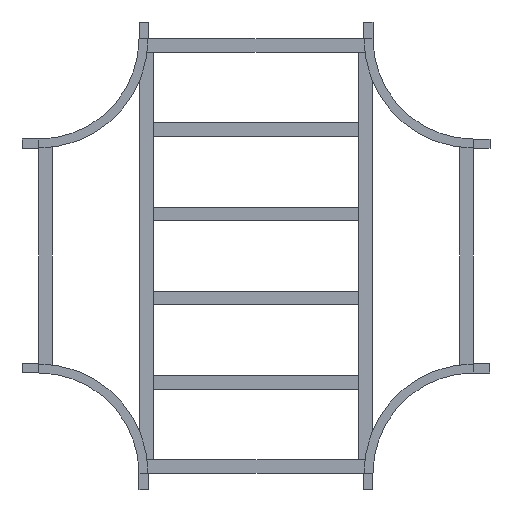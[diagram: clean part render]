
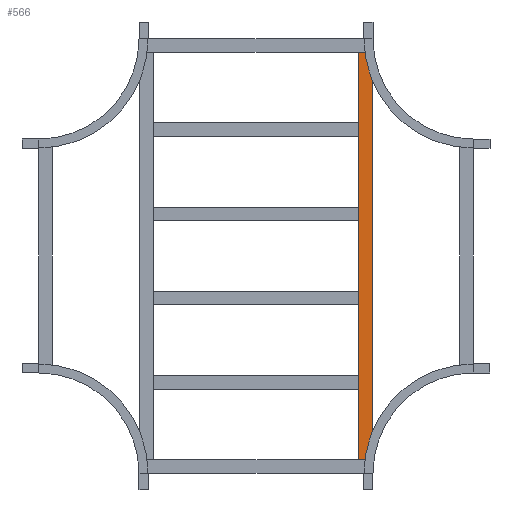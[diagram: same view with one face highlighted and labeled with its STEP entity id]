
A CAD part, front view. The second image highlights one B-rep face of the part: STEP entity #566.
In plain terms, the highlighted planar face has unit normal (0, -1, 0).
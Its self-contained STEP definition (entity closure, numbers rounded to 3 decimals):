
#136 = CARTESIAN_POINT ( 'NONE',  ( 609.5, 0., 20.25 ) ) ;
#154 = DIRECTION ( 'NONE',  ( -1., 0., 0. ) ) ;
#158 = ORIENTED_EDGE ( 'NONE', *, *, #968, .T. ) ;
#209 = VECTOR ( 'NONE', #1270, 1000. ) ;
#231 = EDGE_CURVE ( 'NONE', #1041, #1117, #1126, .T. ) ;
#255 = LINE ( 'NONE', #691, #1267 ) ;
#314 = CARTESIAN_POINT ( 'NONE',  ( -609.5, 0., -20.25 ) ) ;
#327 = ORIENTED_EDGE ( 'NONE', *, *, #231, .T. ) ;
#338 = DIRECTION ( 'NONE',  ( -1., 0., 0. ) ) ;
#405 = LINE ( 'NONE', #1380, #209 ) ;
#421 = VERTEX_POINT ( 'NONE', #1061 ) ;
#515 = CARTESIAN_POINT ( 'NONE',  ( 609.5, 0., 20.25 ) ) ;
#566 = ADVANCED_FACE ( 'NONE', ( #1055 ), #943, .F. ) ;
#575 = LINE ( 'NONE', #1151, #1110 ) ;
#584 = DIRECTION ( 'NONE',  ( 0., 0., -1. ) ) ;
#586 = ORIENTED_EDGE ( 'NONE', *, *, #1376, .F. ) ;
#621 = ORIENTED_EDGE ( 'NONE', *, *, #795, .F. ) ;
#680 = AXIS2_PLACEMENT_3D ( 'NONE', #515, #958, #1284 ) ;
#691 = CARTESIAN_POINT ( 'NONE',  ( 609.5, 0., -20.25 ) ) ;
#795 = EDGE_CURVE ( 'NONE', #1041, #421, #575, .T. ) ;
#943 = PLANE ( 'NONE',  #680 ) ;
#958 = DIRECTION ( 'NONE',  ( 0., 1., 0. ) ) ;
#968 = EDGE_CURVE ( 'NONE', #1117, #1139, #405, .T. ) ;
#987 = CARTESIAN_POINT ( 'NONE',  ( -609.5, 0., 20.25 ) ) ;
#1041 = VERTEX_POINT ( 'NONE', #1044 ) ;
#1044 = CARTESIAN_POINT ( 'NONE',  ( 609.5, 0., 20.25 ) ) ;
#1055 = FACE_OUTER_BOUND ( 'NONE', #1305, .T. ) ;
#1061 = CARTESIAN_POINT ( 'NONE',  ( 609.5, 0., -20.25 ) ) ;
#1110 = VECTOR ( 'NONE', #584, 1000. ) ;
#1117 = VERTEX_POINT ( 'NONE', #987 ) ;
#1126 = LINE ( 'NONE', #136, #1315 ) ;
#1139 = VERTEX_POINT ( 'NONE', #314 ) ;
#1151 = CARTESIAN_POINT ( 'NONE',  ( 609.5, 0., 20.25 ) ) ;
#1267 = VECTOR ( 'NONE', #154, 1000. ) ;
#1270 = DIRECTION ( 'NONE',  ( 0., 0., -1. ) ) ;
#1284 = DIRECTION ( 'NONE',  ( 0., 0., 1. ) ) ;
#1305 = EDGE_LOOP ( 'NONE', ( #158, #586, #621, #327 ) ) ;
#1315 = VECTOR ( 'NONE', #338, 1000. ) ;
#1376 = EDGE_CURVE ( 'NONE', #421, #1139, #255, .T. ) ;
#1380 = CARTESIAN_POINT ( 'NONE',  ( -609.5, 0., 20.25 ) ) ;
